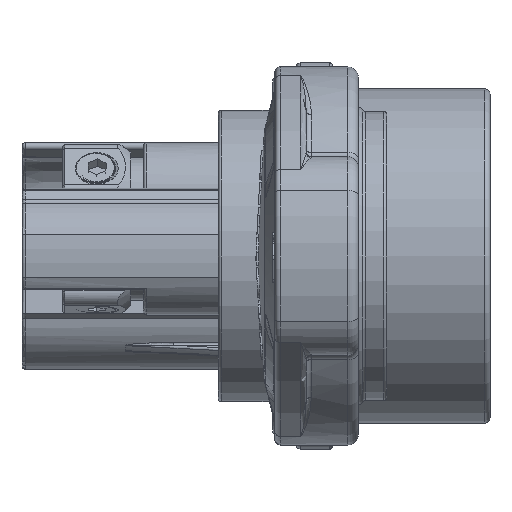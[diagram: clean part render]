
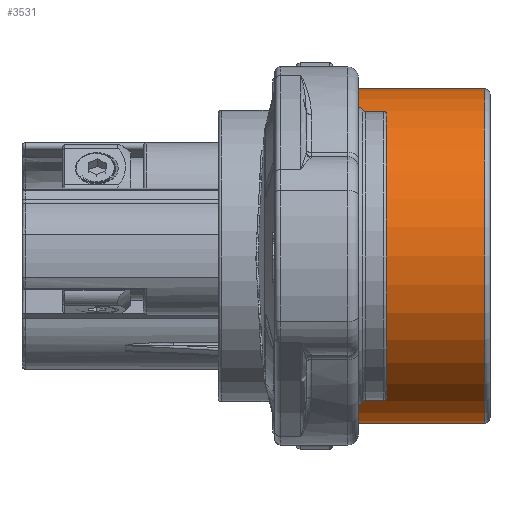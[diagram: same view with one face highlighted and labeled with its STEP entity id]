
A CAD part, front view. The second image highlights one B-rep face of the part: STEP entity #3531.
In plain terms, the highlighted cylindrical face has radius 16 mm (diameter 32 mm), a partial arc.
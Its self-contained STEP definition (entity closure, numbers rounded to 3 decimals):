
#1107 = ORIENTED_EDGE ( 'NONE', *, *, #57085, .T. ) ;
#3322 = DIRECTION ( 'NONE',  ( 0., 0., 1. ) ) ;
#3531 = ADVANCED_FACE ( 'NONE', ( #5869 ), #5471, .T. ) ;
#5471 = CYLINDRICAL_SURFACE ( 'NONE', #43923, 16. ) ;
#5869 = FACE_OUTER_BOUND ( 'NONE', #62733, .T. ) ;
#7816 = CARTESIAN_POINT ( 'NONE',  ( -6.268, 0., 16. ) ) ;
#13907 = VERTEX_POINT ( 'NONE', #18334 ) ;
#14627 = DIRECTION ( 'NONE',  ( -1., 0., 0. ) ) ;
#15260 = VECTOR ( 'NONE', #61373, 1000. ) ;
#16402 = DIRECTION ( 'NONE',  ( 1., 0., 0. ) ) ;
#16516 = CARTESIAN_POINT ( 'NONE',  ( -0.5, 0., 16. ) ) ;
#18334 = CARTESIAN_POINT ( 'NONE',  ( -14.6, 0., 16. ) ) ;
#21382 = ORIENTED_EDGE ( 'NONE', *, *, #39067, .F. ) ;
#23479 = VERTEX_POINT ( 'NONE', #47891 ) ;
#24284 = CIRCLE ( 'NONE', #66509, 16. ) ;
#27092 = EDGE_CURVE ( 'NONE', #61314, #38890, #24284, .T. ) ;
#38735 = AXIS2_PLACEMENT_3D ( 'NONE', #46070, #16402, #65292 ) ;
#38890 = VERTEX_POINT ( 'NONE', #16516 ) ;
#39067 = EDGE_CURVE ( 'NONE', #61314, #23479, #42574, .T. ) ;
#41791 = VECTOR ( 'NONE', #14627, 1000. ) ;
#42574 = LINE ( 'NONE', #78222, #15260 ) ;
#43559 = DIRECTION ( 'NONE',  ( 0., 0., 1. ) ) ;
#43923 = AXIS2_PLACEMENT_3D ( 'NONE', #55200, #48376, #43559 ) ;
#45089 = LINE ( 'NONE', #7816, #41791 ) ;
#46070 = CARTESIAN_POINT ( 'NONE',  ( -14.6, 0., 0. ) ) ;
#47891 = CARTESIAN_POINT ( 'NONE',  ( -14.6, 0., -16. ) ) ;
#48085 = CARTESIAN_POINT ( 'NONE',  ( -0.5, 0., -16. ) ) ;
#48376 = DIRECTION ( 'NONE',  ( -1., 0., 0. ) ) ;
#48947 = EDGE_CURVE ( 'NONE', #38890, #13907, #45089, .T. ) ;
#55200 = CARTESIAN_POINT ( 'NONE',  ( -6.268, 0., 0. ) ) ;
#57085 = EDGE_CURVE ( 'NONE', #13907, #23479, #73252, .T. ) ;
#58254 = DIRECTION ( 'NONE',  ( -1., 0., 0. ) ) ;
#60547 = ORIENTED_EDGE ( 'NONE', *, *, #27092, .T. ) ;
#61314 = VERTEX_POINT ( 'NONE', #48085 ) ;
#61373 = DIRECTION ( 'NONE',  ( -1., 0., 0. ) ) ;
#62733 = EDGE_LOOP ( 'NONE', ( #21382, #60547, #72390, #1107 ) ) ;
#65292 = DIRECTION ( 'NONE',  ( 0., 0., 1. ) ) ;
#66509 = AXIS2_PLACEMENT_3D ( 'NONE', #70244, #58254, #3322 ) ;
#70244 = CARTESIAN_POINT ( 'NONE',  ( -0.5, 0., 0. ) ) ;
#72390 = ORIENTED_EDGE ( 'NONE', *, *, #48947, .T. ) ;
#73252 = CIRCLE ( 'NONE', #38735, 16. ) ;
#78222 = CARTESIAN_POINT ( 'NONE',  ( -6.268, 0., -16. ) ) ;
